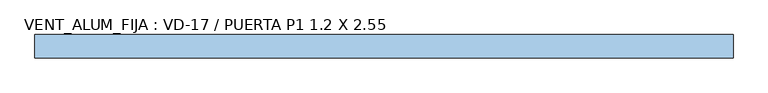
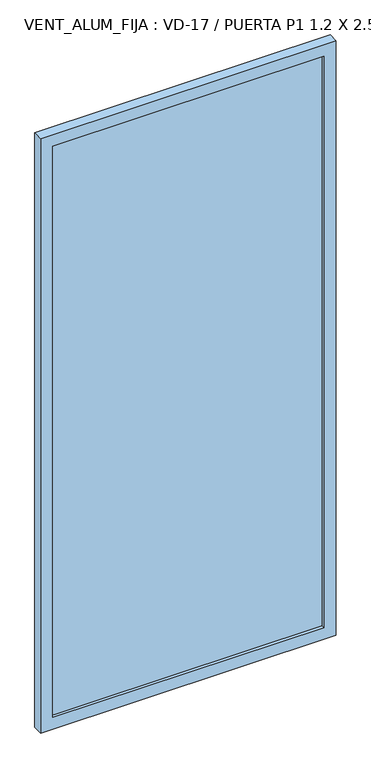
"""IFC4 building model written with IfcOpenShell, lengths in millimetres: window geometry, VENT_ALUM_FIJA : VD-17 / PUERTA P1 1.2 X 2.55."""

from ifc_helpers import new_model, si_unit, frame, origin, place, context, project, spatial, polyline, outline, extrude, source, transform, mapped, element, save


def vent_alum_fija_vd_17_puerta_p1_1_2_x_2_55_b8484343(model_context):
    return source(origin(), model_context, "Body", "SweptSolid", [
        extrude(outline(polyline([(3350.0, -600.0), (800.0, -600.0), (800.0, 600.0), (3350.0, 600.0), (3350.0, -600.0)]), holes=[polyline([(850.0, -550.0), (3300.0, -550.0), (3300.0, 550.0), (850.0, 550.0), (850.0, -550.0)])]), frame((0.0, -15.0, 0.0), z_axis=(0.0, 1.0, 0.0), x_axis=(0.0, 0.0, 1.0)), (0.0, 0.0, 1.0), 40.0),
        extrude(outline(polyline([(550.0, 3.0), (550.0, -3.0), (-550.0, -3.0), (-550.0, 3.0), (550.0, 3.0)])), frame((0.0, 0.0, 850.0), z_axis=(0.0, 0.0, 1.0), x_axis=(1.0, 0.0, 0.0)), (0.0, 0.0, 1.0), 2450.0),
    ])


if __name__ == "__main__":
    model = new_model("IFC4")
    model_context = context("Model", 3, world=origin())
    ifc_project = project(units=[si_unit("LENGTHUNIT", "METRE", prefix="MILLI")], contexts=[model_context])
    site = spatial("IfcSite", under=ifc_project)
    building = spatial("IfcBuilding", under=site)
    placement = place(None, origin())
    vent_alum_fija_vd_17_puerta_p1_1_2_x_2_55_shape = vent_alum_fija_vd_17_puerta_p1_1_2_x_2_55_b8484343(model_context)
    element("IfcWindow", 1, ObjectType="VENT_ALUM_FIJA : VD-17 / PUERTA P1 1.2 X 2.55", at=placement, inside=building, context=model_context, shape_type="MappedRepresentation", body=[
        mapped(vent_alum_fija_vd_17_puerta_p1_1_2_x_2_55_shape, transform((0.0, 0.0, 0.0), x_axis=(1.0, 0.0, 0.0), y_axis=(0.0, 1.0, 0.0), z_axis=(0.0, 0.0, 1.0))),
    ])
    save(model, "model.ifc")
